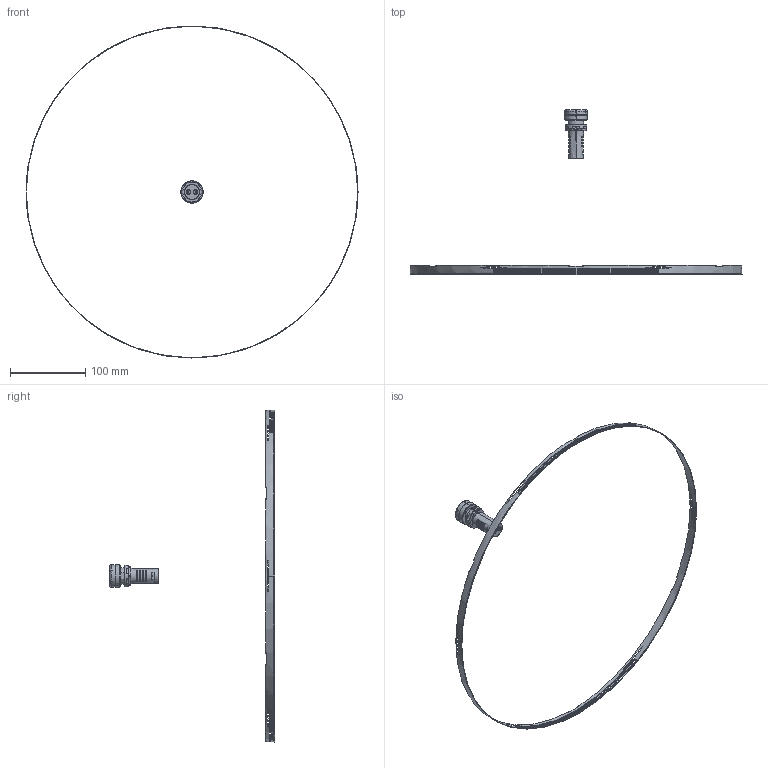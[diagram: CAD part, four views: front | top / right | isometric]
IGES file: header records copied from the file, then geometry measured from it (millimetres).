
Start section: SolidWorks IGES file using analytic representation for surfaces
Global section: file name: D:\X - Arquivos\PROEX\Empresas\P11 - METALTEX\01 - Produtos\IGES\Terceira remessa\BZ20.IGS; native system: SolidWorks 2012; preprocessor: SolidWorks 2012; author: Usuario; date: 180207.113319; units: millimetre
Bounding box: 441.54 x 219.67 x 441.54 mm (x, y, z)
Surface area: 21755.9 mm2 (no closed solid volume)
Topology: 0 solids, 0 shells, 340 faces, 3274 edges, 3274 vertices
Faces by surface type: bspline 242, revolution 98
